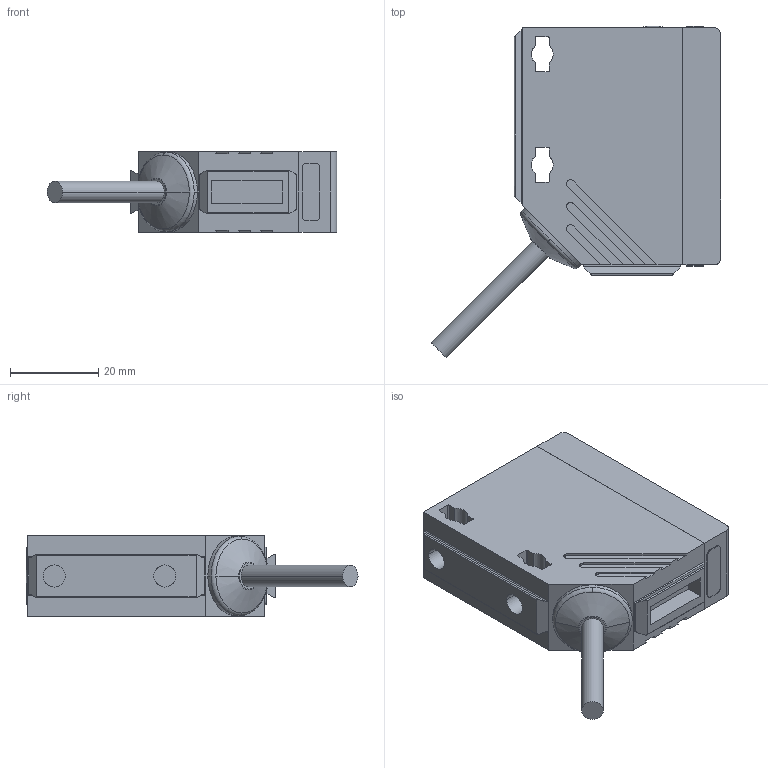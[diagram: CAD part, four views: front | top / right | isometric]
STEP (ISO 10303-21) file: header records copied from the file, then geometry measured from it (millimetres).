
FILE_DESCRIPTION( ( '' ), '1' );
FILE_NAME( '//expscmdclustefs.cadenas.external/client_exchange/iodir/jobs/output/wkb39662131_no0/STEP/o5h503_2_03_56fa68aab0d912ba39a93ed9979b71de.stp', '2011-12-01T09:08:16', ( '' ), ( '' ), ' ', ' ', ' ' );
FILE_SCHEMA( ( 'CONFIG_CONTROL_DESIGN' ) );
Length unit declared in the file: millimetre
Products named in the file (2): 1; 2
Bounding box: 65.52 x 75.13 x 18.25 mm (x, y, z)
Volume: 43151.1 mm3; surface area: 11656.2 mm2
Topology: 2 solids, 2 shells, 256 faces, 702 edges, 467 vertices
Faces by surface type: plane 124, cylinder 74, cone 32, torus 24, sphere 2
Entity records: 8399 total; most frequent: CARTESIAN_POINT 1511, DIRECTION 1499, ORIENTED_EDGE 1404, EDGE_CURVE 702, AXIS2_PLACEMENT_3D 551, VERTEX_POINT 467, LINE 397, VECTOR 397
